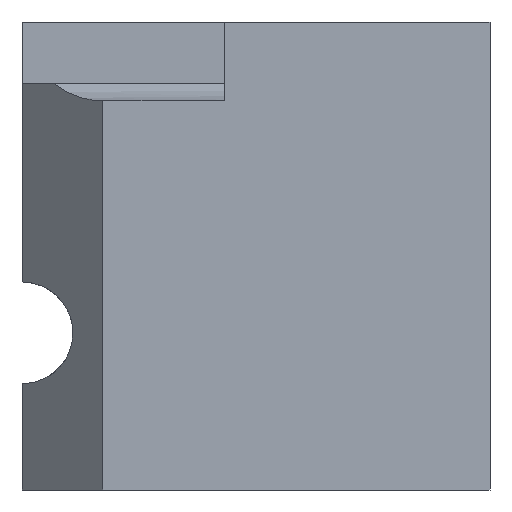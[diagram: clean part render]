
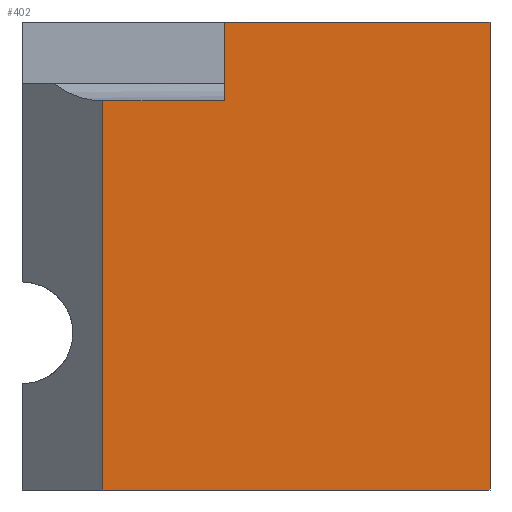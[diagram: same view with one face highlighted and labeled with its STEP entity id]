
A CAD part, front view. The second image highlights one B-rep face of the part: STEP entity #402.
In plain terms, the highlighted planar face has unit normal (0, -1, 0).
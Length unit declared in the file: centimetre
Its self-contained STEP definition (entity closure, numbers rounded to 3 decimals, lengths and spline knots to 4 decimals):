
#4 = CARTESIAN_POINT ( 'NONE',  ( 432.8972, 0., 831.7437 ) ) ;
#5 = LINE ( 'NONE', #678, #908 ) ;
#56 = VERTEX_POINT ( 'NONE', #71 ) ;
#68 = CARTESIAN_POINT ( 'NONE',  ( 432.8972, 0., 831.7437 ) ) ;
#71 = CARTESIAN_POINT ( 'NONE',  ( 1000., 0., 1000. ) ) ;
#72 = EDGE_CURVE ( 'NONE', #436, #56, #1085, .T. ) ;
#143 = EDGE_CURVE ( 'NONE', #1262, #521, #552, .T. ) ;
#172 = EDGE_CURVE ( 'NONE', #521, #473, #802, .T. ) ;
#175 = VERTEX_POINT ( 'NONE', #4 ) ;
#221 = CARTESIAN_POINT ( 'NONE',  ( 172.489, 0., 1000. ) ) ;
#223 = DIRECTION ( 'NONE',  ( 0., 0., 1. ) ) ;
#298 = VECTOR ( 'NONE', #340, 100. ) ;
#321 = CARTESIAN_POINT ( 'NONE',  ( 172.489, 0., 0. ) ) ;
#340 = DIRECTION ( 'NONE',  ( 0., 0., -1. ) ) ;
#402 = ADVANCED_FACE ( 'NONE', ( #1403 ), #1171, .F. ) ;
#417 = LINE ( 'NONE', #957, #882 ) ;
#434 = DIRECTION ( 'NONE',  ( 1., 0., 0. ) ) ;
#436 = VERTEX_POINT ( 'NONE', #629 ) ;
#469 = CARTESIAN_POINT ( 'NONE',  ( 0., 0., 0. ) ) ;
#473 = VERTEX_POINT ( 'NONE', #1063 ) ;
#519 = DIRECTION ( 'NONE',  ( -1., 0., 0. ) ) ;
#521 = VERTEX_POINT ( 'NONE', #321 ) ;
#524 = ORIENTED_EDGE ( 'NONE', *, *, #848, .T. ) ;
#542 = EDGE_LOOP ( 'NONE', ( #855, #524, #1238, #1098, #1059, #720 ) ) ;
#552 = LINE ( 'NONE', #221, #298 ) ;
#629 = CARTESIAN_POINT ( 'NONE',  ( 432.8972, 0., 1000. ) ) ;
#641 = CARTESIAN_POINT ( 'NONE',  ( 0., 0., 1000. ) ) ;
#678 = CARTESIAN_POINT ( 'NONE',  ( 432.8972, 0., 1000. ) ) ;
#720 = ORIENTED_EDGE ( 'NONE', *, *, #72, .F. ) ;
#802 = LINE ( 'NONE', #469, #1369 ) ;
#815 = VECTOR ( 'NONE', #519, 100. ) ;
#833 = LINE ( 'NONE', #68, #815 ) ;
#835 = EDGE_CURVE ( 'NONE', #56, #473, #417, .T. ) ;
#848 = EDGE_CURVE ( 'NONE', #175, #1262, #833, .T. ) ;
#855 = ORIENTED_EDGE ( 'NONE', *, *, #1321, .F. ) ;
#856 = AXIS2_PLACEMENT_3D ( 'NONE', #641, #1285, #1420 ) ;
#882 = VECTOR ( 'NONE', #1289, 100. ) ;
#908 = VECTOR ( 'NONE', #223, 100. ) ;
#957 = CARTESIAN_POINT ( 'NONE',  ( 1000., 0., 1000. ) ) ;
#1059 = ORIENTED_EDGE ( 'NONE', *, *, #835, .F. ) ;
#1063 = CARTESIAN_POINT ( 'NONE',  ( 1000., 0., 0. ) ) ;
#1085 = LINE ( 'NONE', #1421, #1344 ) ;
#1098 = ORIENTED_EDGE ( 'NONE', *, *, #172, .T. ) ;
#1171 = PLANE ( 'NONE',  #856 ) ;
#1209 = DIRECTION ( 'NONE',  ( 1., 0., 0. ) ) ;
#1238 = ORIENTED_EDGE ( 'NONE', *, *, #143, .T. ) ;
#1262 = VERTEX_POINT ( 'NONE', #1334 ) ;
#1285 = DIRECTION ( 'NONE',  ( 0., 1., 0. ) ) ;
#1289 = DIRECTION ( 'NONE',  ( 0., 0., -1. ) ) ;
#1321 = EDGE_CURVE ( 'NONE', #175, #436, #5, .T. ) ;
#1334 = CARTESIAN_POINT ( 'NONE',  ( 172.489, 0., 831.7437 ) ) ;
#1344 = VECTOR ( 'NONE', #434, 100. ) ;
#1369 = VECTOR ( 'NONE', #1209, 100. ) ;
#1403 = FACE_OUTER_BOUND ( 'NONE', #542, .T. ) ;
#1420 = DIRECTION ( 'NONE',  ( 0., 0., 1. ) ) ;
#1421 = CARTESIAN_POINT ( 'NONE',  ( 0., 0., 1000. ) ) ;
